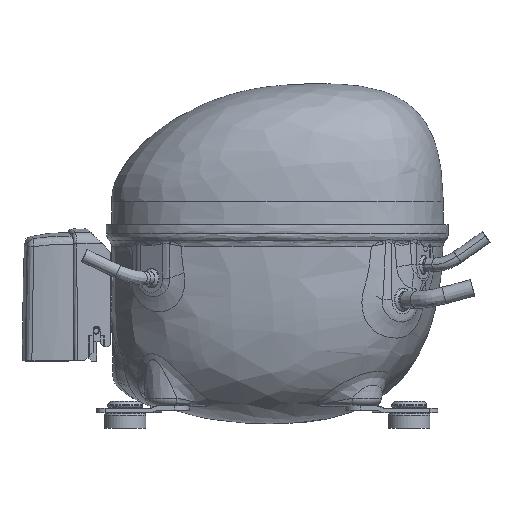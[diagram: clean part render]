
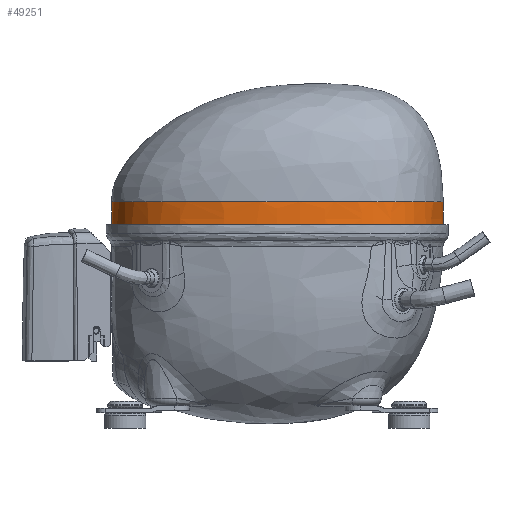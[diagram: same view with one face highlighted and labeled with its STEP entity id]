
A CAD part, top view. The second image highlights one B-rep face of the part: STEP entity #49251.
In plain terms, the highlighted face is a extrusion surface.
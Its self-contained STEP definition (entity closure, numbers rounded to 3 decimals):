
#47205=CARTESIAN_POINT('',(-99.826,-117.5,
0.52));
#47216=CARTESIAN_POINT('',(-99.826,-117.5,
0.52));
#47217=CARTESIAN_POINT('',(-99.782,-117.5,
6.448));
#47218=CARTESIAN_POINT('',(-98.58,-117.509,
18.463));
#47219=CARTESIAN_POINT('',(-94.639,-117.504,
33.083));
#47220=CARTESIAN_POINT('',(-89.649,-117.503,
44.293));
#47221=CARTESIAN_POINT('',(-84.876,-117.502,
52.172));
#47222=CARTESIAN_POINT('',(-79.107,-117.501,
59.433));
#47223=CARTESIAN_POINT('',(-72.038,-117.499,
65.57));
#47224=CARTESIAN_POINT('',(-64.005,-117.497,
70.26));
#47225=CARTESIAN_POINT('',(-52.612,-117.495,
74.857));
#47226=CARTESIAN_POINT('',(-37.713,-117.493,
78.249));
#47227=CARTESIAN_POINT('',(-19.653,-117.491,
80.204));
#47228=CARTESIAN_POINT('',(-1.48,-117.49,
80.588));
#47229=CARTESIAN_POINT('',(16.659,-117.49,
79.154));
#47230=CARTESIAN_POINT('',(34.553,-117.491,
75.978));
#47231=CARTESIAN_POINT('',(52.107,-117.495,
71.038));
#47232=CARTESIAN_POINT('',(68.833,-117.502,
63.247));
#47233=CARTESIAN_POINT('',(80.926,-117.505,
53.567));
#47234=CARTESIAN_POINT('',(88.867,-117.508,
44.09));
#47235=CARTESIAN_POINT('',(93.511,-117.508,
36.029));
#47236=CARTESIAN_POINT('',(96.845,-117.511,
27.357));
#47237=CARTESIAN_POINT('',(98.278,-117.512,
19.689));
#47238=CARTESIAN_POINT('',(98.595,-117.51,
13.544));
#47239=CARTESIAN_POINT('',(98.636,-117.51,
7.676));
#47240=CARTESIAN_POINT('',(98.664,-117.5,
3.354));
#47241=CARTESIAN_POINT('',(98.669,-117.5,
0.52));
#47255=CARTESIAN_POINT('',(98.669,-117.5,
0.52));
#47309=DIRECTION('',(0.,-1.,
0.));
#47310=VECTOR('',#47309,20.464);
#47311=CARTESIAN_POINT('',(98.669,-97.036,0.52));
#47312=LINE('',#47311,#47310);
#47347=DIRECTION('',(0.,-1.,0.));
#47348=VECTOR('',#47347,20.464);
#47349=CARTESIAN_POINT('',(-99.826,-97.036,0.52));
#47350=LINE('',#47349,#47348);
#47351=CARTESIAN_POINT('',(-99.826,-97.036,0.52));
#47352=CARTESIAN_POINT('',(-99.791,-97.036,5.253));
#47353=CARTESIAN_POINT('',(-99.017,-97.036,14.41));
#47354=CARTESIAN_POINT('',(-96.437,-97.036,26.803));
#47355=CARTESIAN_POINT('',(-92.755,-97.036,37.728));
#47356=CARTESIAN_POINT('',(-87.975,-97.036,47.422));
#47357=CARTESIAN_POINT('',(-82.28,-97.036,55.766));
#47358=CARTESIAN_POINT('',(-76.876,-97.036,61.452));
#47359=CARTESIAN_POINT('',(-72.153,-97.036,65.214));
#47360=CARTESIAN_POINT('',(-67.178,-97.036,68.494));
#47361=CARTESIAN_POINT('',(-60.419,-97.036,71.858));
#47362=CARTESIAN_POINT('',(-51.375,-97.036,75.014));
#47363=CARTESIAN_POINT('',(-41.022,-97.036,77.455));
#47364=CARTESIAN_POINT('',(-29.062,-97.036,79.259));
#47365=CARTESIAN_POINT('',(-15.361,-97.036,80.341));
#47366=CARTESIAN_POINT('',(-0.329,-97.036,80.474));
#47367=CARTESIAN_POINT('',(15.717,-97.036,79.215));
#47368=CARTESIAN_POINT('',(31.458,-97.036,76.565));
#47369=CARTESIAN_POINT('',(45.599,-97.036,72.979));
#47370=CARTESIAN_POINT('',(58.026,-97.036,68.396));
#47371=CARTESIAN_POINT('',(68.577,-97.036,62.872));
#47372=CARTESIAN_POINT('',(77.451,-97.036,56.393));
#47373=CARTESIAN_POINT('',(84.906,-97.036,49.128));
#47374=CARTESIAN_POINT('',(89.812,-97.036,42.493));
#47375=CARTESIAN_POINT('',(92.959,-97.036,36.797));
#47376=CARTESIAN_POINT('',(94.916,-97.036,32.376));
#47377=CARTESIAN_POINT('',(96.581,-97.036,27.585));
#47378=CARTESIAN_POINT('',(97.757,-97.036,22.659));
#47379=CARTESIAN_POINT('',(98.392,-97.036,17.315));
#47380=CARTESIAN_POINT('',(98.629,-97.036,11.87));
#47381=CARTESIAN_POINT('',(98.68,-97.036,6.232));
#47382=CARTESIAN_POINT('',(98.668,-97.036,2.444));
#47383=CARTESIAN_POINT('',(98.669,-97.036,0.52));
#47653=VERTEX_POINT('',#47205);
#47656=VERTEX_POINT('',#47255);
#47669=CARTESIAN_POINT('',(-99.826,-97.036,0.52));
#47670=VERTEX_POINT('',#47669);
#47671=CARTESIAN_POINT('',(98.669,-97.036,0.52));
#47672=VERTEX_POINT('',#47671);
#49207=CARTESIAN_POINT('',(-99.826,-97.3,0.52));
#49208=CARTESIAN_POINT('',(-99.791,-97.3,5.253));
#49209=CARTESIAN_POINT('',(-99.017,-97.3,14.41));
#49210=CARTESIAN_POINT('',(-96.437,-97.3,26.803));
#49211=CARTESIAN_POINT('',(-92.755,-97.3,37.728));
#49212=CARTESIAN_POINT('',(-87.975,-97.3,47.422));
#49213=CARTESIAN_POINT('',(-82.28,-97.3,55.766));
#49214=CARTESIAN_POINT('',(-76.876,-97.3,61.452));
#49215=CARTESIAN_POINT('',(-72.153,-97.3,65.214));
#49216=CARTESIAN_POINT('',(-67.178,-97.3,68.494));
#49217=CARTESIAN_POINT('',(-60.419,-97.3,71.858));
#49218=CARTESIAN_POINT('',(-51.375,-97.3,75.014));
#49219=CARTESIAN_POINT('',(-41.022,-97.3,77.455));
#49220=CARTESIAN_POINT('',(-29.062,-97.3,79.259));
#49221=CARTESIAN_POINT('',(-15.361,-97.3,80.341));
#49222=CARTESIAN_POINT('',(-0.329,-97.3,80.474));
#49223=CARTESIAN_POINT('',(15.717,-97.3,79.215));
#49224=CARTESIAN_POINT('',(31.458,-97.3,76.565));
#49225=CARTESIAN_POINT('',(45.599,-97.3,72.979));
#49226=CARTESIAN_POINT('',(58.026,-97.3,68.396));
#49227=CARTESIAN_POINT('',(68.577,-97.3,62.872));
#49228=CARTESIAN_POINT('',(77.451,-97.3,56.393));
#49229=CARTESIAN_POINT('',(84.906,-97.3,49.128));
#49230=CARTESIAN_POINT('',(89.812,-97.3,42.493));
#49231=CARTESIAN_POINT('',(92.959,-97.3,36.797));
#49232=CARTESIAN_POINT('',(94.916,-97.3,32.376));
#49233=CARTESIAN_POINT('',(96.581,-97.3,27.585));
#49234=CARTESIAN_POINT('',(97.757,-97.3,22.659));
#49235=CARTESIAN_POINT('',(98.392,-97.3,17.315));
#49236=CARTESIAN_POINT('',(98.629,-97.3,11.87));
#49237=CARTESIAN_POINT('',(98.68,-97.3,6.232));
#49238=CARTESIAN_POINT('',(98.668,-97.3,2.444));
#49239=CARTESIAN_POINT('',(98.669,-97.3,0.52));
#49241=DIRECTION('',(0.,-1.,0.));
#49242=VECTOR('',#49241,1.);
#49243=SURFACE_OF_LINEAR_EXTRUSION('',#49240,#49242);
#49244=ORIENTED_EDGE('',*,*,#49197,.F.);
#49246=ORIENTED_EDGE('',*,*,#49245,.T.);
#49247=ORIENTED_EDGE('',*,*,#49200,.T.);
#49248=ORIENTED_EDGE('',*,*,#48410,.F.);
#49249=EDGE_LOOP('',(#49244,#49246,#49247,#49248));
#49250=FACE_OUTER_BOUND('',#49249,.F.);
#49251=ADVANCED_FACE('',(#49250),#49243,.F.);
#47242=B_SPLINE_CURVE_WITH_KNOTS('',3,(#47216,#47217,#47218,#47219,#47220,
#47221,#47222,#47223,#47224,#47225,#47226,#47227,#47228,#47229,#47230,#47231,
#47232,#47233,#47234,#47235,#47236,#47237,#47238,#47239,#47240,#47241),
.UNSPECIFIED.,.F.,.F.,(4,1,1,1,1,1,1,1,1,1,1,1,1,1,1,1,1,1,1,1,1,1,1,4),(0.,
0.061,0.124,0.155,0.186,
0.218,0.249,0.28,0.312,
0.375,0.437,0.5,0.563,
0.625,0.688,0.751,0.814,
0.845,0.876,0.908,0.939,
0.955,0.97,1.),.UNSPECIFIED.);
#47384=B_SPLINE_CURVE_WITH_KNOTS('',3,(#47351,#47352,#47353,#47354,#47355,
#47356,#47357,#47358,#47359,#47360,#47361,#47362,#47363,#47364,#47365,#47366,
#47367,#47368,#47369,#47370,#47371,#47372,#47373,#47374,#47375,#47376,#47377,
#47378,#47379,#47380,#47381,#47382,#47383),.UNSPECIFIED.,.F.,.F.,(4,1,1,1,1,1,1,
1,1,1,1,1,1,1,1,1,1,1,1,1,1,1,1,1,1,1,1,1,1,1,4),(0.,0.039,
0.079,0.119,0.159,0.199,
0.239,0.259,0.279,0.32,
0.36,0.4,0.44,0.48,
0.52,0.56,0.6,0.641,
0.681,0.721,0.761,0.801,
0.841,0.86,0.881,0.901,
0.921,0.941,0.962,0.981,1.),
.UNSPECIFIED.);
#48410=EDGE_CURVE('',#47653,#47656,#47242,.T.);
#49197=EDGE_CURVE('',#47670,#47653,#47350,.T.);
#49200=EDGE_CURVE('',#47672,#47656,#47312,.T.);
#49240=B_SPLINE_CURVE_WITH_KNOTS('',3,(#49207,#49208,#49209,#49210,#49211,
#49212,#49213,#49214,#49215,#49216,#49217,#49218,#49219,#49220,#49221,#49222,
#49223,#49224,#49225,#49226,#49227,#49228,#49229,#49230,#49231,#49232,#49233,
#49234,#49235,#49236,#49237,#49238,#49239),.UNSPECIFIED.,.F.,.F.,(4,1,1,1,1,1,1,
1,1,1,1,1,1,1,1,1,1,1,1,1,1,1,1,1,1,1,1,1,1,1,4),(0.,0.039,
0.079,0.119,0.159,0.199,
0.239,0.259,0.279,0.32,
0.36,0.4,0.44,0.48,
0.52,0.56,0.6,0.641,
0.681,0.721,0.761,0.801,
0.841,0.86,0.881,0.901,
0.921,0.941,0.962,0.981,1.),
.UNSPECIFIED.);
#49245=EDGE_CURVE('',#47670,#47672,#47384,.T.);
